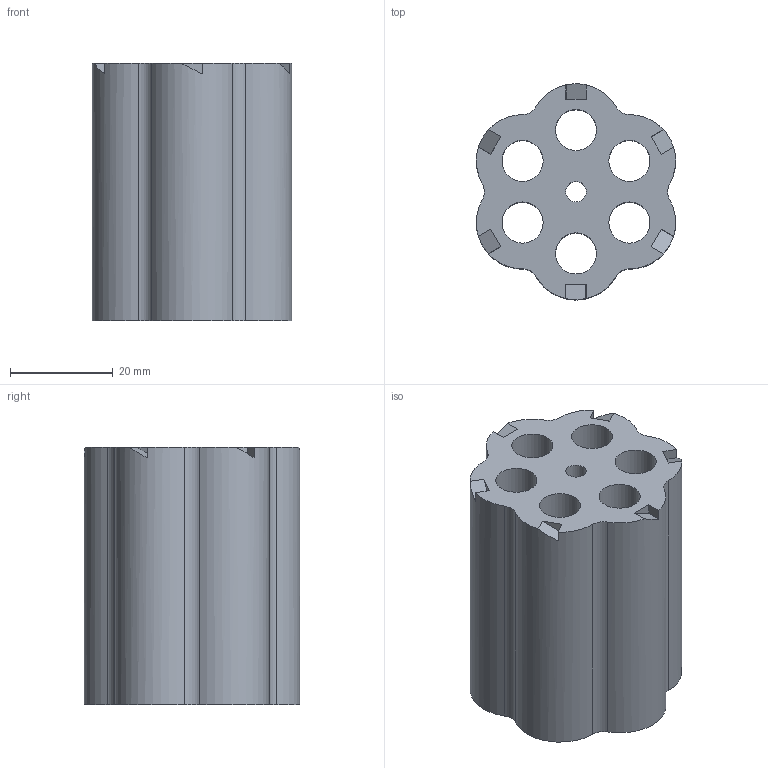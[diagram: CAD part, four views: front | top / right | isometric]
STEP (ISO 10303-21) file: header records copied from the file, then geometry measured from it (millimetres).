
FILE_DESCRIPTION((''),'2;1');
FILE_NAME('C:\MRFR\SHOCK\Hexen\STP\barrel.stp','2013-08-15T20:09:26',('mrfr'),(''),'Autodesk Inventor 2013','Autodesk Inventor 2013','');
FILE_SCHEMA(('AUTOMOTIVE_DESIGN { 1 0 10303 214 1 1 1 1 }'));
Length unit declared in the file: millimetre
Products named in the file (1): barrel
Bounding box: 38.78 x 42 x 50 mm (x, y, z)
Volume: 45477.4 mm3; surface area: 16699.3 mm2
Topology: 1 solids, 1 shells, 47 faces, 133 edges, 89 vertices
Faces by surface type: plane 27, cylinder 20
Full cylindrical faces by diameter (mm): 4 x1, 8 x7
Entity records: 1558 total; most frequent: DIRECTION 278, CARTESIAN_POINT 260, ORIENTED_EDGE 248, EDGE_CURVE 124, AXIS2_PLACEMENT_3D 106, VERTEX_POINT 88, EDGE_LOOP 70, VECTOR 66
